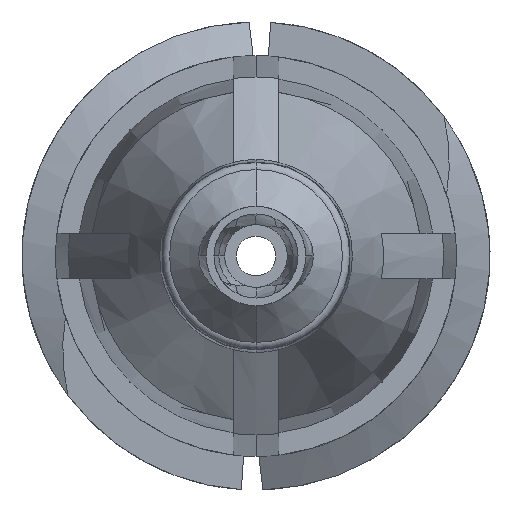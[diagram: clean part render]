
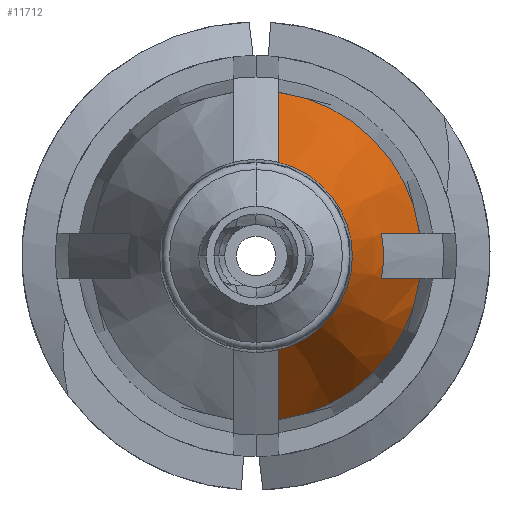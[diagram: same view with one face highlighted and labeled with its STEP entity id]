
A CAD part, front view. The second image highlights one B-rep face of the part: STEP entity #11712.
In plain terms, the highlighted conical face has half-angle 20 degrees and reference radius 2.745 mm.
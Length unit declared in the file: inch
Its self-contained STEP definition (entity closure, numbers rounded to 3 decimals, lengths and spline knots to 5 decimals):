
#122 = CARTESIAN_POINT ( 'NONE',  ( 0.10703, -0.406, 0.015 ) ) ;
#179 = CARTESIAN_POINT ( 'NONE',  ( 0.015, -0.52985, 0.06119 ) ) ;
#205 = VERTEX_POINT ( 'NONE', #9474 ) ;
#593 = FACE_OUTER_BOUND ( 'NONE', #10766, .T. ) ;
#886 = CARTESIAN_POINT ( 'NONE',  ( 0.015, -0.48863, -0.07664 ) ) ;
#960 = CARTESIAN_POINT ( 'NONE',  ( 0.10703, -0.406, -0.015 ) ) ;
#1699 = DIRECTION ( 'NONE',  ( 0., 0., 1. ) ) ;
#2234 = VERTEX_POINT ( 'NONE', #6575 ) ;
#2519 = CIRCLE ( 'NONE', #8623, 0.10808 ) ;
#2672 = ORIENTED_EDGE ( 'NONE', *, *, #5989, .F. ) ;
#3444 = VERTEX_POINT ( 'NONE', #5772 ) ;
#3659 = EDGE_CURVE ( 'NONE', #14886, #205, #11254, .T. ) ;
#4255 = EDGE_CURVE ( 'NONE', #2234, #5205, #4612, .T. ) ;
#4280 = DIRECTION ( 'NONE',  ( 0., 0., 1. ) ) ;
#4373 = DIRECTION ( 'NONE',  ( 0., 0., 1. ) ) ;
#4612 = B_SPLINE_CURVE_WITH_KNOTS ( 'NONE', 3,
 ( #12082, #8438, #4624, #8203 ),
 .UNSPECIFIED., .F., .F.,
 ( 4, 4 ),
 ( 0.00247, 0.00431 ),
 .UNSPECIFIED. ) ;
#4624 = CARTESIAN_POINT ( 'NONE',  ( 0.0987, -0.42866, -0.015 ) ) ;
#4757 = CARTESIAN_POINT ( 'NONE',  ( 0.015, -0.406, 0.10703 ) ) ;
#4810 = AXIS2_PLACEMENT_3D ( 'NONE', #10363, #6188, #1699 ) ;
#5070 = ORIENTED_EDGE ( 'NONE', *, *, #10274, .F. ) ;
#5205 = VERTEX_POINT ( 'NONE', #960 ) ;
#5300 = ORIENTED_EDGE ( 'NONE', *, *, #12325, .F. ) ;
#5530 = CARTESIAN_POINT ( 'NONE',  ( 0.015, -0.52985, -0.06119 ) ) ;
#5772 = CARTESIAN_POINT ( 'NONE',  ( 0.08198, -0.47395, 0.015 ) ) ;
#5803 = CARTESIAN_POINT ( 'NONE',  ( 0.10703, -0.406, 0.015 ) ) ;
#5872 = AXIS2_PLACEMENT_3D ( 'NONE', #14227, #8028, #4373 ) ;
#5989 = EDGE_CURVE ( 'NONE', #5205, #205, #9175, .T. ) ;
#5997 = CARTESIAN_POINT ( 'NONE',  ( 0.0987, -0.42866, 0.015 ) ) ;
#6188 = DIRECTION ( 'NONE',  ( 0., 1., 0. ) ) ;
#6210 = ORIENTED_EDGE ( 'NONE', *, *, #12992, .T. ) ;
#6575 = CARTESIAN_POINT ( 'NONE',  ( 0.08198, -0.47395, -0.015 ) ) ;
#6582 = CIRCLE ( 'NONE', #12929, 0.063 ) ;
#6593 = ORIENTED_EDGE ( 'NONE', *, *, #3659, .T. ) ;
#7143 = CARTESIAN_POINT ( 'NONE',  ( 0.015, -0.48863, 0.07664 ) ) ;
#7190 = CARTESIAN_POINT ( 'NONE',  ( 0.09036, -0.45131, 0.015 ) ) ;
#7193 = CARTESIAN_POINT ( 'NONE',  ( 0., -0.47395, 0. ) ) ;
#7299 = DIRECTION ( 'NONE',  ( 0., 1., 0. ) ) ;
#7350 = CONICAL_SURFACE ( 'NONE', #4810, 0.10808, 0.349 ) ;
#7811 = VERTEX_POINT ( 'NONE', #179 ) ;
#7940 = DIRECTION ( 'NONE',  ( 0., 1., 0. ) ) ;
#8028 = DIRECTION ( 'NONE',  ( 0., 1., 0. ) ) ;
#8076 = B_SPLINE_CURVE_WITH_KNOTS ( 'NONE', 3,
 ( #13248, #7143, #11904, #4757 ),
 .UNSPECIFIED., .F., .F.,
 ( 4, 4 ),
 ( 0.00282, 0.00617 ),
 .UNSPECIFIED. ) ;
#8123 = CARTESIAN_POINT ( 'NONE',  ( 0.015, -0.52985, -0.06119 ) ) ;
#8141 = ORIENTED_EDGE ( 'NONE', *, *, #10581, .F. ) ;
#8203 = CARTESIAN_POINT ( 'NONE',  ( 0.10703, -0.406, -0.015 ) ) ;
#8281 = CARTESIAN_POINT ( 'NONE',  ( 0.015, -0.44732, -0.09185 ) ) ;
#8389 = DIRECTION ( 'NONE',  ( 0., 1., 0. ) ) ;
#8438 = CARTESIAN_POINT ( 'NONE',  ( 0.09036, -0.45131, -0.015 ) ) ;
#8623 = AXIS2_PLACEMENT_3D ( 'NONE', #10328, #7940, #4280 ) ;
#8658 = DIRECTION ( 'NONE',  ( 0., 0., 1. ) ) ;
#8717 = VERTEX_POINT ( 'NONE', #11376 ) ;
#9175 = CIRCLE ( 'NONE', #5872, 0.10808 ) ;
#9322 = VERTEX_POINT ( 'NONE', #5803 ) ;
#9474 = CARTESIAN_POINT ( 'NONE',  ( 0.015, -0.406, -0.10703 ) ) ;
#10274 = EDGE_CURVE ( 'NONE', #3444, #2234, #12400, .T. ) ;
#10328 = CARTESIAN_POINT ( 'NONE',  ( 0., -0.406, 0. ) ) ;
#10363 = CARTESIAN_POINT ( 'NONE',  ( 0., -0.406, 0. ) ) ;
#10581 = EDGE_CURVE ( 'NONE', #7811, #8717, #8076, .T. ) ;
#10766 = EDGE_LOOP ( 'NONE', ( #8141, #6210, #6593, #2672, #11576, #5070, #11450, #5300 ) ) ;
#11254 = B_SPLINE_CURVE_WITH_KNOTS ( 'NONE', 3,
 ( #8123, #886, #8281, #12959 ),
 .UNSPECIFIED., .F., .F.,
 ( 4, 4 ),
 ( 0.00282, 0.00617 ),
 .UNSPECIFIED. ) ;
#11376 = CARTESIAN_POINT ( 'NONE',  ( 0.015, -0.406, 0.10703 ) ) ;
#11450 = ORIENTED_EDGE ( 'NONE', *, *, #14237, .F. ) ;
#11487 = B_SPLINE_CURVE_WITH_KNOTS ( 'NONE', 3,
 ( #122, #5997, #7190, #12340 ),
 .UNSPECIFIED., .F., .F.,
 ( 4, 4 ),
 ( 0.00343, 0.00527 ),
 .UNSPECIFIED. ) ;
#11576 = ORIENTED_EDGE ( 'NONE', *, *, #4255, .F. ) ;
#11712 = ADVANCED_FACE ( 'NONE', ( #593 ), #7350, .T. ) ;
#11904 = CARTESIAN_POINT ( 'NONE',  ( 0.015, -0.44732, 0.09185 ) ) ;
#12034 = DIRECTION ( 'NONE',  ( 0., 0., -1. ) ) ;
#12082 = CARTESIAN_POINT ( 'NONE',  ( 0.08198, -0.47395, -0.015 ) ) ;
#12325 = EDGE_CURVE ( 'NONE', #8717, #9322, #2519, .T. ) ;
#12340 = CARTESIAN_POINT ( 'NONE',  ( 0.08198, -0.47395, 0.015 ) ) ;
#12400 = CIRCLE ( 'NONE', #14937, 0.08335 ) ;
#12929 = AXIS2_PLACEMENT_3D ( 'NONE', #13488, #7299, #8658 ) ;
#12959 = CARTESIAN_POINT ( 'NONE',  ( 0.015, -0.406, -0.10703 ) ) ;
#12992 = EDGE_CURVE ( 'NONE', #7811, #14886, #6582, .T. ) ;
#13248 = CARTESIAN_POINT ( 'NONE',  ( 0.015, -0.52985, 0.06119 ) ) ;
#13488 = CARTESIAN_POINT ( 'NONE',  ( 0., -0.52985, 0. ) ) ;
#14227 = CARTESIAN_POINT ( 'NONE',  ( 0., -0.406, 0. ) ) ;
#14237 = EDGE_CURVE ( 'NONE', #9322, #3444, #11487, .T. ) ;
#14886 = VERTEX_POINT ( 'NONE', #5530 ) ;
#14937 = AXIS2_PLACEMENT_3D ( 'NONE', #7193, #8389, #12034 ) ;
